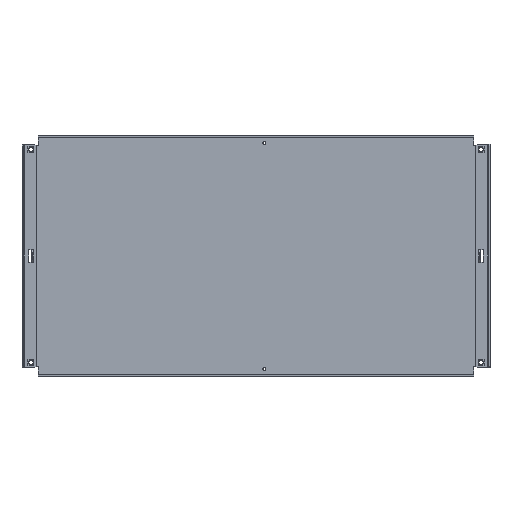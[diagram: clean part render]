
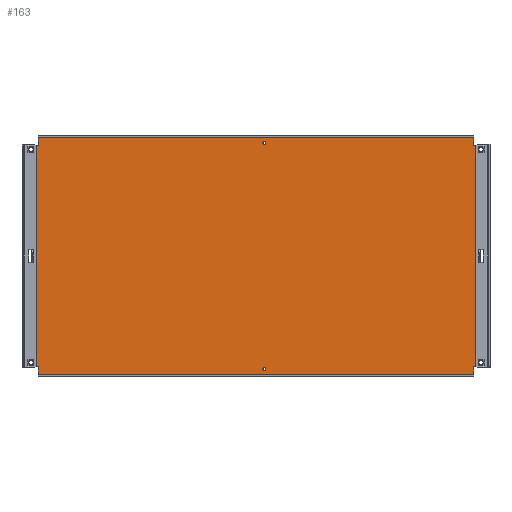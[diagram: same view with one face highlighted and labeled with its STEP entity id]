
A CAD part, top view. The second image highlights one B-rep face of the part: STEP entity #163.
In plain terms, the highlighted planar face has unit normal (0, 0, 1).
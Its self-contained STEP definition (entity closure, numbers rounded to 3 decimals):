
#163=ADVANCED_FACE('',(#1535,#1537,#1539,#1541,#1543,#1545,#1547),#1549,.T.);
#1535=FACE_BOUND('',#1536,.T.);
#1536=EDGE_LOOP('',(#2639,#2640,#2641,#2642,#2643,#2644,#2645,#2646,#2647,#2648,
#2649,#2650,#2651,#2652,#2653,#2654,#2655,#2656,#2657,#2658,#2659,#2660,#2661,#2662,
#2663,#2664,#2665,#2666));
#1537=FACE_BOUND('',#1538,.T.);
#1538=EDGE_LOOP('',(#2667));
#1539=FACE_BOUND('',#1540,.T.);
#1540=EDGE_LOOP('',(#2668));
#1541=FACE_BOUND('',#1542,.T.);
#1542=EDGE_LOOP('',(#2669));
#1543=FACE_BOUND('',#1544,.T.);
#1544=EDGE_LOOP('',(#2670));
#1545=FACE_BOUND('',#1546,.T.);
#1546=EDGE_LOOP('',(#2671));
#1547=FACE_BOUND('',#1548,.T.);
#1548=EDGE_LOOP('',(#2672));
#1549=PLANE('',#1550);
#1550=AXIS2_PLACEMENT_3D('',#1551,#1552,#1553);
#1551=CARTESIAN_POINT('',(0.,0.,0.));
#1552=DIRECTION('',(0.,0.,1.));
#1553=DIRECTION('',(1.,0.,0.));
#2639=ORIENTED_EDGE('',*,*,#3414,.F.);
#2640=ORIENTED_EDGE('',*,*,#3415,.T.);
#2641=ORIENTED_EDGE('',*,*,#3381,.T.);
#2642=ORIENTED_EDGE('',*,*,#3416,.T.);
#2643=ORIENTED_EDGE('',*,*,#3417,.T.);
#2644=ORIENTED_EDGE('',*,*,#3418,.F.);
#2645=ORIENTED_EDGE('',*,*,#3419,.F.);
#2646=ORIENTED_EDGE('',*,*,#3420,.F.);
#2647=ORIENTED_EDGE('',*,*,#3421,.T.);
#2648=ORIENTED_EDGE('',*,*,#3422,.T.);
#2649=ORIENTED_EDGE('',*,*,#3423,.T.);
#2650=ORIENTED_EDGE('',*,*,#3424,.T.);
#2651=ORIENTED_EDGE('',*,*,#3425,.F.);
#2652=ORIENTED_EDGE('',*,*,#3426,.T.);
#2653=ORIENTED_EDGE('',*,*,#3427,.T.);
#2654=ORIENTED_EDGE('',*,*,#3428,.T.);
#2655=ORIENTED_EDGE('',*,*,#3429,.T.);
#2656=ORIENTED_EDGE('',*,*,#3430,.T.);
#2657=ORIENTED_EDGE('',*,*,#3431,.T.);
#2658=ORIENTED_EDGE('',*,*,#3432,.F.);
#2659=ORIENTED_EDGE('',*,*,#3433,.F.);
#2660=ORIENTED_EDGE('',*,*,#3434,.F.);
#2661=ORIENTED_EDGE('',*,*,#3387,.T.);
#2662=ORIENTED_EDGE('',*,*,#3435,.T.);
#2663=ORIENTED_EDGE('',*,*,#3436,.F.);
#2664=ORIENTED_EDGE('',*,*,#3437,.F.);
#2665=ORIENTED_EDGE('',*,*,#3438,.F.);
#2666=ORIENTED_EDGE('',*,*,#3377,.F.);
#2667=ORIENTED_EDGE('',*,*,#3365,.F.);
#2668=ORIENTED_EDGE('',*,*,#3367,.T.);
#2669=ORIENTED_EDGE('',*,*,#3369,.T.);
#2670=ORIENTED_EDGE('',*,*,#3371,.F.);
#2671=ORIENTED_EDGE('',*,*,#3373,.T.);
#2672=ORIENTED_EDGE('',*,*,#3375,.F.);
#3365=EDGE_CURVE('',#3757,#3757,#3758,.T.);
#3367=EDGE_CURVE('',#3761,#3761,#3762,.T.);
#3369=EDGE_CURVE('',#3765,#3765,#3766,.T.);
#3371=EDGE_CURVE('',#3769,#3769,#3770,.T.);
#3373=EDGE_CURVE('',#3773,#3773,#3774,.T.);
#3375=EDGE_CURVE('',#3777,#3777,#3778,.T.);
#3377=EDGE_CURVE('',#3781,#3782,#3783,.T.);
#3381=EDGE_CURVE('',#3789,#3790,#3791,.T.);
#3387=EDGE_CURVE('',#3802,#3800,#3803,.T.);
#3414=EDGE_CURVE('',#3852,#3781,#3853,.T.);
#3415=EDGE_CURVE('',#3852,#3789,#3854,.T.);
#3416=EDGE_CURVE('',#3790,#3855,#3856,.T.);
#3417=EDGE_CURVE('',#3855,#3857,#3858,.T.);
#3418=EDGE_CURVE('',#3859,#3857,#3860,.T.);
#3419=EDGE_CURVE('',#3861,#3859,#3862,.T.);
#3420=EDGE_CURVE('',#3863,#3861,#3864,.T.);
#3421=EDGE_CURVE('',#3863,#3865,#3866,.T.);
#3422=EDGE_CURVE('',#3865,#3867,#3868,.T.);
#3423=EDGE_CURVE('',#3867,#3869,#3870,.T.);
#3424=EDGE_CURVE('',#3869,#3871,#3872,.T.);
#3425=EDGE_CURVE('',#3873,#3871,#3874,.T.);
#3426=EDGE_CURVE('',#3873,#3875,#3876,.T.);
#3427=EDGE_CURVE('',#3875,#3877,#3878,.T.);
#3428=EDGE_CURVE('',#3877,#3879,#3880,.T.);
#3429=EDGE_CURVE('',#3879,#3881,#3882,.T.);
#3430=EDGE_CURVE('',#3881,#3883,#3884,.T.);
#3431=EDGE_CURVE('',#3883,#3885,#3886,.T.);
#3432=EDGE_CURVE('',#3887,#3885,#3888,.T.);
#3433=EDGE_CURVE('',#3889,#3887,#3890,.T.);
#3434=EDGE_CURVE('',#3802,#3889,#3891,.T.);
#3435=EDGE_CURVE('',#3800,#3892,#3893,.T.);
#3436=EDGE_CURVE('',#3894,#3892,#3895,.T.);
#3437=EDGE_CURVE('',#3896,#3894,#3897,.T.);
#3438=EDGE_CURVE('',#3782,#3896,#3898,.T.);
#3757=VERTEX_POINT('',#4401);
#3758=CIRCLE('',#4402,2.3);
#3761=VERTEX_POINT('',#4411);
#3762=CIRCLE('',#4412,2.3);
#3765=VERTEX_POINT('',#4421);
#3766=CIRCLE('',#4422,3.65);
#3769=VERTEX_POINT('',#4431);
#3770=CIRCLE('',#4432,3.65);
#3773=VERTEX_POINT('',#4441);
#3774=CIRCLE('',#4442,3.65);
#3777=VERTEX_POINT('',#4451);
#3778=CIRCLE('',#4452,3.65);
#3781=VERTEX_POINT('',#4461);
#3782=VERTEX_POINT('',#4462);
#3783=LINE('',#4463,#4464);
#3789=VERTEX_POINT('',#4477);
#3790=VERTEX_POINT('',#4478);
#3791=LINE('',#4479,#4480);
#3800=VERTEX_POINT('',#4498);
#3802=VERTEX_POINT('',#4502);
#3803=LINE('',#4503,#4504);
#3852=VERTEX_POINT('',#4606);
#3853=LINE('',#4607,#4608);
#3854=LINE('',#4610,#4611);
#3855=VERTEX_POINT('',#4613);
#3856=LINE('',#4614,#4615);
#3857=VERTEX_POINT('',#4617);
#3858=LINE('',#4618,#4619);
#3859=VERTEX_POINT('',#4621);
#3860=LINE('',#4622,#4623);
#3861=VERTEX_POINT('',#4625);
#3862=LINE('',#4626,#4627);
#3863=VERTEX_POINT('',#4629);
#3864=LINE('',#4630,#4631);
#3865=VERTEX_POINT('',#4633);
#3866=LINE('',#4634,#4635);
#3867=VERTEX_POINT('',#4637);
#3868=LINE('',#4638,#4639);
#3869=VERTEX_POINT('',#4641);
#3870=LINE('',#4642,#4643);
#3871=VERTEX_POINT('',#4645);
#3872=LINE('',#4646,#4647);
#3873=VERTEX_POINT('',#4649);
#3874=LINE('',#4650,#4651);
#3875=VERTEX_POINT('',#4653);
#3876=LINE('',#4654,#4655);
#3877=VERTEX_POINT('',#4657);
#3878=LINE('',#4658,#4659);
#3879=VERTEX_POINT('',#4661);
#3880=LINE('',#4662,#4663);
#3881=VERTEX_POINT('',#4665);
#3882=LINE('',#4666,#4667);
#3883=VERTEX_POINT('',#4669);
#3884=LINE('',#4670,#4671);
#3885=VERTEX_POINT('',#4673);
#3886=LINE('',#4674,#4675);
#3887=VERTEX_POINT('',#4677);
#3888=LINE('',#4678,#4679);
#3889=VERTEX_POINT('',#4681);
#3890=LINE('',#4682,#4683);
#3891=LINE('',#4685,#4686);
#3892=VERTEX_POINT('',#4688);
#3893=LINE('',#4689,#4690);
#3894=VERTEX_POINT('',#4692);
#3895=LINE('',#4693,#4694);
#3896=VERTEX_POINT('',#4696);
#3897=LINE('',#4697,#4698);
#3898=LINE('',#4700,#4701);
#4401=CARTESIAN_POINT('',(11.2,185.7,0.));
#4402=AXIS2_PLACEMENT_3D('',#4403,#4404,#4405);
#4403=CARTESIAN_POINT('',(13.5,185.7,0.));
#4404=DIRECTION('',(0.,0.,1.));
#4405=DIRECTION('',(-1.,0.,0.));
#4411=CARTESIAN_POINT('',(11.2,-185.7,0.));
#4412=AXIS2_PLACEMENT_3D('',#4413,#4414,#4415);
#4413=CARTESIAN_POINT('',(13.5,-185.7,0.));
#4414=DIRECTION('',(0.,0.,-1.));
#4415=DIRECTION('',(1.,0.,0.));
#4421=CARTESIAN_POINT('',(366.45,175.,0.));
#4422=AXIS2_PLACEMENT_3D('',#4423,#4424,#4425);
#4423=CARTESIAN_POINT('',(370.1,175.,0.));
#4424=DIRECTION('',(0.,0.,-1.));
#4425=DIRECTION('',(1.,0.,0.));
#4431=CARTESIAN_POINT('',(366.45,-175.,0.));
#4432=AXIS2_PLACEMENT_3D('',#4433,#4434,#4435);
#4433=CARTESIAN_POINT('',(370.1,-175.,0.));
#4434=DIRECTION('',(0.,0.,1.));
#4435=DIRECTION('',(-1.,0.,0.));
#4441=CARTESIAN_POINT('',(-373.75,-175.,0.));
#4442=AXIS2_PLACEMENT_3D('',#4443,#4444,#4445);
#4443=CARTESIAN_POINT('',(-370.1,-175.,0.));
#4444=DIRECTION('',(0.,0.,-1.));
#4445=DIRECTION('',(1.,0.,0.));
#4451=CARTESIAN_POINT('',(-373.75,175.,0.));
#4452=AXIS2_PLACEMENT_3D('',#4453,#4454,#4455);
#4453=CARTESIAN_POINT('',(-370.1,175.,0.));
#4454=DIRECTION('',(0.,0.,1.));
#4455=DIRECTION('',(-1.,0.,0.));
#4461=CARTESIAN_POINT('',(365.2,16.,0.));
#4462=CARTESIAN_POINT('',(365.2,7.5,0.));
#4463=CARTESIAN_POINT('',(365.2,16.,0.));
#4464=VECTOR('',#4465,1.);
#4465=DIRECTION('',(0.,-1.,0.));
#4477=CARTESIAN_POINT('',(377.6,23.07,0.));
#4478=CARTESIAN_POINT('',(377.6,182.25,0.));
#4479=CARTESIAN_POINT('',(377.6,23.07,0.));
#4480=VECTOR('',#4481,1.);
#4481=DIRECTION('',(0.,1.,0.));
#4498=CARTESIAN_POINT('',(377.6,-23.07,0.));
#4502=CARTESIAN_POINT('',(377.6,-182.25,0.));
#4503=CARTESIAN_POINT('',(377.6,-182.25,0.));
#4504=VECTOR('',#4505,1.);
#4505=DIRECTION('',(0.,1.,0.));
#4606=CARTESIAN_POINT('',(370.53,16.,0.));
#4607=CARTESIAN_POINT('',(370.53,16.,0.));
#4608=VECTOR('',#4609,1.);
#4609=DIRECTION('',(-1.,0.,0.));
#4610=CARTESIAN_POINT('',(370.53,16.,0.));
#4611=VECTOR('',#4612,1.);
#4612=DIRECTION('',(0.707,0.707,0.));
#4613=CARTESIAN_POINT('',(357.6,182.25,0.));
#4614=CARTESIAN_POINT('',(377.6,182.25,0.));
#4615=VECTOR('',#4616,1.);
#4616=DIRECTION('',(-1.,0.,0.));
#4617=CARTESIAN_POINT('',(357.6,194.1,0.));
#4618=CARTESIAN_POINT('',(357.6,182.25,0.));
#4619=VECTOR('',#4620,1.);
#4620=DIRECTION('',(0.,1.,0.));
#4621=CARTESIAN_POINT('',(-357.6,194.1,0.));
#4622=CARTESIAN_POINT('',(-357.6,194.1,0.));
#4623=VECTOR('',#4624,1.);
#4624=DIRECTION('',(1.,0.,0.));
#4625=CARTESIAN_POINT('',(-357.6,182.25,0.));
#4626=CARTESIAN_POINT('',(-357.6,182.25,0.));
#4627=VECTOR('',#4628,1.);
#4628=DIRECTION('',(0.,1.,0.));
#4629=CARTESIAN_POINT('',(-377.6,182.25,0.));
#4630=CARTESIAN_POINT('',(-377.6,182.25,0.));
#4631=VECTOR('',#4632,1.);
#4632=DIRECTION('',(1.,0.,0.));
#4633=CARTESIAN_POINT('',(-377.6,23.07,0.));
#4634=CARTESIAN_POINT('',(-377.6,182.25,0.));
#4635=VECTOR('',#4636,1.);
#4636=DIRECTION('',(0.,-1.,0.));
#4637=CARTESIAN_POINT('',(-370.53,16.,0.));
#4638=CARTESIAN_POINT('',(-377.6,23.07,0.));
#4639=VECTOR('',#4640,1.);
#4640=DIRECTION('',(0.707,-0.707,0.));
#4641=CARTESIAN_POINT('',(-365.2,16.,0.));
#4642=CARTESIAN_POINT('',(-370.53,16.,0.));
#4643=VECTOR('',#4644,1.);
#4644=DIRECTION('',(1.,0.,0.));
#4645=CARTESIAN_POINT('',(-365.2,7.5,0.));
#4646=CARTESIAN_POINT('',(-365.2,16.,0.));
#4647=VECTOR('',#4648,1.);
#4648=DIRECTION('',(0.,-1.,0.));
#4649=CARTESIAN_POINT('',(-365.2,-7.5,0.));
#4650=CARTESIAN_POINT('',(-365.2,-7.5,0.));
#4651=VECTOR('',#4652,1.);
#4652=DIRECTION('',(0.,1.,0.));
#4653=CARTESIAN_POINT('',(-365.2,-16.,0.));
#4654=CARTESIAN_POINT('',(-365.2,-7.5,0.));
#4655=VECTOR('',#4656,1.);
#4656=DIRECTION('',(0.,-1.,0.));
#4657=CARTESIAN_POINT('',(-370.53,-16.,0.));
#4658=CARTESIAN_POINT('',(-365.2,-16.,0.));
#4659=VECTOR('',#4660,1.);
#4660=DIRECTION('',(-1.,0.,0.));
#4661=CARTESIAN_POINT('',(-377.6,-23.07,0.));
#4662=CARTESIAN_POINT('',(-370.53,-16.,0.));
#4663=VECTOR('',#4664,1.);
#4664=DIRECTION('',(-0.707,-0.707,0.));
#4665=CARTESIAN_POINT('',(-377.6,-182.25,0.));
#4666=CARTESIAN_POINT('',(-377.6,-23.07,0.));
#4667=VECTOR('',#4668,1.);
#4668=DIRECTION('',(0.,-1.,0.));
#4669=CARTESIAN_POINT('',(-357.6,-182.25,0.));
#4670=CARTESIAN_POINT('',(-377.6,-182.25,0.));
#4671=VECTOR('',#4672,1.);
#4672=DIRECTION('',(1.,0.,0.));
#4673=CARTESIAN_POINT('',(-357.6,-194.1,0.));
#4674=CARTESIAN_POINT('',(-357.6,-182.25,0.));
#4675=VECTOR('',#4676,1.);
#4676=DIRECTION('',(0.,-1.,0.));
#4677=CARTESIAN_POINT('',(357.6,-194.1,0.));
#4678=CARTESIAN_POINT('',(357.6,-194.1,0.));
#4679=VECTOR('',#4680,1.);
#4680=DIRECTION('',(-1.,0.,0.));
#4681=CARTESIAN_POINT('',(357.6,-182.25,0.));
#4682=CARTESIAN_POINT('',(357.6,-182.25,0.));
#4683=VECTOR('',#4684,1.);
#4684=DIRECTION('',(0.,-1.,0.));
#4685=CARTESIAN_POINT('',(377.6,-182.25,0.));
#4686=VECTOR('',#4687,1.);
#4687=DIRECTION('',(-1.,0.,0.));
#4688=CARTESIAN_POINT('',(370.53,-16.,0.));
#4689=CARTESIAN_POINT('',(377.6,-23.07,0.));
#4690=VECTOR('',#4691,1.);
#4691=DIRECTION('',(-0.707,0.707,0.));
#4692=CARTESIAN_POINT('',(365.2,-16.,0.));
#4693=CARTESIAN_POINT('',(365.2,-16.,0.));
#4694=VECTOR('',#4695,1.);
#4695=DIRECTION('',(1.,0.,0.));
#4696=CARTESIAN_POINT('',(365.2,-7.5,0.));
#4697=CARTESIAN_POINT('',(365.2,-7.5,0.));
#4698=VECTOR('',#4699,1.);
#4699=DIRECTION('',(0.,-1.,0.));
#4700=CARTESIAN_POINT('',(365.2,7.5,0.));
#4701=VECTOR('',#4702,1.);
#4702=DIRECTION('',(0.,-1.,0.));
